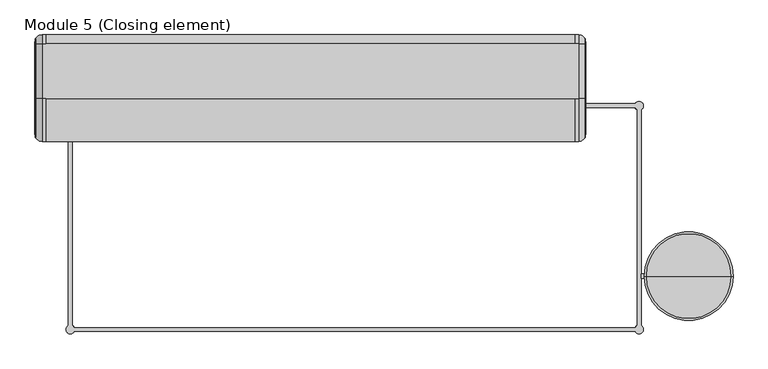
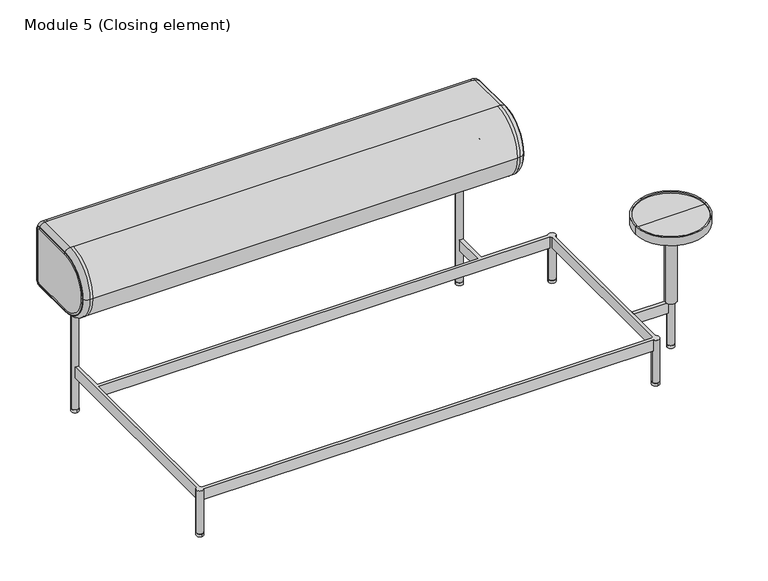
"""IFC4 building model written with IfcOpenShell, lengths in millimetres: furniture geometry, Module 5 (Closing element) : 1800х930х710мм."""

from ifc_helpers import new_model, si_unit, point, frame, frame_2d, origin, origin_with_axes, place, context, project, spatial, polyline, circle_curve, ellipse_curve, trimmed, segment, composite_curve, outline, extrude, source, transform, mapped, element, save
from ifc_brep_helpers import plane_surface, cylinder_surface, revolved_surface, advanced_brep


def module_5_closing_element_739b21b6(model_context):
    return source(origin(), model_context, "Body", "SolidModel", [
        extrude(outline(composite_curve([segment(trimmed(circle_curve(frame_2d((1840.0, -680.0)), 12.5), [point((1852.5, -680.0))], [point((1827.5, -680.0))], False, "CARTESIAN"), True, "CONTINUOUS"), segment(trimmed(circle_curve(frame_2d((1840.0, -680.0)), 12.5), [point((1827.5, -680.0))], [point((1852.5, -680.0))], False, "CARTESIAN"), True, "CONTINUOUS")], self_intersect=False)), origin_with_axes(), (0.0, 0.0, 1.0), 10.0),
        extrude(outline(composite_curve([segment(trimmed(circle_curve(frame_2d((1700.0, -200.0)), 12.5), [point((1712.5, -200.0))], [point((1687.5, -200.0))], False, "CARTESIAN"), True, "CONTINUOUS"), segment(trimmed(circle_curve(frame_2d((1700.0, -200.0)), 12.5), [point((1687.5, -200.0))], [point((1712.5, -200.0))], False, "CARTESIAN"), True, "CONTINUOUS")], self_intersect=False)), origin_with_axes(), (0.0, 0.0, 1.0), 10.0),
        extrude(outline(composite_curve([segment(trimmed(circle_curve(frame_2d((1450.0, -70.0)), 12.5), [point((1462.5, -70.0))], [point((1437.5, -70.0))], False, "CARTESIAN"), True, "CONTINUOUS"), segment(trimmed(circle_curve(frame_2d((1450.0, -70.0)), 12.5), [point((1437.5, -70.0))], [point((1462.5, -70.0))], False, "CARTESIAN"), True, "CONTINUOUS")], self_intersect=False)), origin_with_axes(), (0.0, 0.0, 1.0), 10.0),
        extrude(outline(composite_curve([segment(trimmed(circle_curve(frame_2d((1700.0, -830.0)), 12.5), [point((1700.0, -842.5))], [point((1700.0, -817.5))], False, "CARTESIAN"), True, "CONTINUOUS"), segment(trimmed(circle_curve(frame_2d((1700.0, -830.0)), 12.5), [point((1700.0, -817.5))], [point((1700.0, -842.5))], False, "CARTESIAN"), True, "CONTINUOUS")], self_intersect=False)), origin_with_axes(), (0.0, 0.0, 1.0), 10.0),
        extrude(outline(composite_curve([segment(trimmed(circle_curve(frame_2d((100.0, -70.0)), 12.5), [point((100.0, -82.5))], [point((100.0, -57.5))], False, "CARTESIAN"), True, "CONTINUOUS"), segment(trimmed(circle_curve(frame_2d((100.0, -70.0)), 12.5), [point((100.0, -57.5))], [point((100.0, -82.5))], False, "CARTESIAN"), True, "CONTINUOUS")], self_intersect=False)), origin_with_axes(), (0.0, 0.0, 1.0), 10.0),
        extrude(outline(composite_curve([segment(trimmed(circle_curve(frame_2d((100.0, -830.0)), 12.5), [point((100.0, -842.5))], [point((100.0, -817.5))], False, "CARTESIAN"), True, "CONTINUOUS"), segment(trimmed(circle_curve(frame_2d((100.0, -830.0)), 12.5), [point((100.0, -817.5))], [point((100.0, -842.5))], False, "CARTESIAN"), True, "CONTINUOUS")], self_intersect=False)), origin_with_axes(), (0.0, 0.0, 1.0), 10.0),
        advanced_brep(
        [(1705.9718002, -674.0, 170.0), (1705.9718002, -674.0, 130.0), (1705.9718002, -686.0, 130.0), (1705.9718002, -686.0, 170.0), (1829.0341439, -686.0, 170.0), (1852.5, -680.0, 170.0), (1829.0341439, -674.0, 170.0), (1829.0341439, -686.0, 130.0), (1829.0341439, -674.0, 130.0), (1827.5, -680.0, 130.0), (1827.5, -680.0, 10.0), (1852.5, -680.0, 10.0)],
        [
            (0, 1),
            (1, 2),
            (2, 3),
            (3, 0),
            (3, 4),
            (4, 5, circle_curve(frame((1840.0, -680.0, 170.0), z_axis=(0.0, 0.0, 1.0), x_axis=(1.0, 0.0, 0.0)), 12.5)),
            (5, 6, circle_curve(frame((1840.0, -680.0, 170.0), z_axis=(0.0, 0.0, 1.0), x_axis=(1.0, 0.0, 0.0)), 12.5)),
            (6, 0),
            (2, 7),
            (7, 4),
            (1, 8),
            (8, 9, circle_curve(frame((1840.0, -680.0, 130.0), z_axis=(0.0, 0.0, 1.0), x_axis=(1.0, 0.0, 0.0)), 12.5)),
            (9, 7, circle_curve(frame((1840.0, -680.0, 130.0), z_axis=(0.0, 0.0, 1.0), x_axis=(1.0, 0.0, 0.0)), 12.5)),
            (6, 8),
            (10, 11, circle_curve(frame((1840.0, -680.0, 10.0), z_axis=(0.0, 0.0, -1.0), x_axis=(1.0, 0.0, 0.0)), 12.5)),
            (11, 10, circle_curve(frame((1840.0, -680.0, 10.0), z_axis=(0.0, 0.0, -1.0), x_axis=(1.0, 0.0, 0.0)), 12.5)),
            (11, 5),
            (9, 10),
        ],
        [
            plane_surface(frame((1705.9718002, -680.0, 0.0), z_axis=(-1.0, 0.0, 0.0), x_axis=(0.0, 0.0, 1.0))),
            plane_surface(frame((1840.0, -674.0, 170.0), z_axis=(0.0, 0.0, 1.0), x_axis=(-1.0, 0.0, 0.0))),
            plane_surface(frame((1840.0, -686.0, 170.0), z_axis=(0.0, -1.0, 0.0), x_axis=(-1.0, 0.0, 0.0))),
            plane_surface(frame((1840.0, -686.0, 130.0), z_axis=(0.0, 0.0, -1.0), x_axis=(-1.0, 0.0, 0.0))),
            plane_surface(frame((1840.0, -674.0, 130.0), z_axis=(0.0, 1.0, 0.0), x_axis=(-1.0, 0.0, 0.0))),
            plane_surface(frame((1852.5, -680.0, 10.0), z_axis=(0.0, 0.0, -1.0), x_axis=(0.0, -1.0, 0.0))),
            cylinder_surface(frame((1840.0, -680.0, 10.0), z_axis=(0.0, 0.0, 1.0), x_axis=(1.0, 0.0, 0.0)), 12.5),
        ],
        [
            (0, [[1, 2, 3, 4]]),
            (1, [[-4, 5, 6, 7, 8]]),
            (2, [[-3, 9, 10, -5]]),
            (3, [[-2, 11, 12, 13, -9]]),
            (4, [[-1, -8, 14, -11]]),
            (5, [[15, 16]]),
            (6, [[-16, 17, -6, -10, -13, 18]]),
            (6, [[-15, -18, -12, -14, -7, -17]]),
        ],
    ),
        advanced_brep(
        [(106.0281998, -206.0281998, 130.0), (106.0281998, -206.0281998, 170.0), (106.0281998, -819.0496207, 170.0), (106.0281998, -819.0496207, 130.0), (94.0281998, -819.0187614, 130.0), (94.0281998, -819.0187614, 170.0), (94.0281998, -80.9812386, 170.0), (94.0281998, -80.9812386, 130.0), (110.9503793, -823.9718002, 170.0), (1689.0496207, -823.9718002, 170.0), (1689.0496207, -823.9718002, 130.0), (110.9503793, -823.9718002, 130.0), (110.9812386, -835.9718002, 130.0), (1689.0187614, -835.9718002, 130.0), (1689.0187614, -835.9718002, 170.0), (110.9812386, -835.9718002, 170.0), (1693.9718002, -819.0496207, 170.0), (1693.9718002, -210.9503793, 170.0), (1693.9718002, -210.9503793, 130.0), (1693.9718002, -819.0496207, 130.0), (1705.9718002, -819.0187614, 130.0), (1705.9718002, -210.9812386, 130.0), (1705.9718002, -210.9812386, 170.0), (1705.9718002, -819.0187614, 170.0), (1689.0496207, -206.0281998, 130.0), (1689.0496207, -206.0281998, 170.0), (112.5, -830.0, 130.0), (1687.5, -830.0, 130.0), (106.0281998, -80.9503793, 130.0), (106.0281998, -194.0281998, 130.0), (1444.0, -194.0281998, 130.0), (1444.0, -80.9658561, 130.0), (1456.0, -80.9658561, 130.0), (1456.0, -194.0281998, 130.0), (1689.0187614, -194.0281998, 130.0), (1687.5, -200.0, 130.0), (1689.0187614, -194.0281998, 170.0), (1456.0, -194.0281998, 170.0), (106.0281998, -194.0281998, 170.0), (1444.0, -194.0281998, 170.0), (87.5, -830.0, 170.0), (1712.5, -830.0, 170.0), (1712.5, -200.0, 170.0), (1456.0, -80.9658561, 170.0), (1444.0, -80.9658561, 170.0), (106.0281998, -80.9503793, 170.0), (87.5, -830.0, 10.0), (112.5, -830.0, 10.0), (1687.5, -830.0, 10.0), (1712.5, -830.0, 10.0), (1687.5, -200.0, 10.0), (1712.5, -200.0, 10.0), (87.5, -70.0, 460.0), (112.5, -70.0, 460.0), (1437.5, -70.0, 460.0), (1462.5, -70.0, 460.0), (87.5, -70.0, 10.0), (112.5, -70.0, 10.0), (1437.5, -70.0, 10.0), (1462.5, -70.0, 10.0)],
        [
            (0, 1),
            (1, 2),
            (2, 3),
            (3, 0),
            (4, 5),
            (5, 6),
            (6, 7),
            (7, 4),
            (8, 9),
            (9, 10),
            (10, 11),
            (11, 8),
            (12, 13),
            (13, 14),
            (14, 15),
            (15, 12),
            (16, 17),
            (17, 18),
            (18, 19),
            (19, 16),
            (20, 21),
            (21, 22),
            (22, 23),
            (23, 20),
            (0, 24),
            (24, 25),
            (25, 1),
            (12, 26, circle_curve(frame((100.0, -830.0, 130.0), z_axis=(0.0, 0.0, 1.0), x_axis=(1.0, 0.0, 0.0)), 12.5)),
            (26, 11, circle_curve(frame((100.0, -830.0, 130.0), z_axis=(0.0, 0.0, 1.0), x_axis=(1.0, 0.0, 0.0)), 12.5)),
            (10, 27, circle_curve(frame((1700.0, -830.0, 130.0), z_axis=(0.0, 0.0, 1.0), x_axis=(1.0, 0.0, 0.0)), 12.5)),
            (27, 13, circle_curve(frame((1700.0, -830.0, 130.0), z_axis=(0.0, 0.0, 1.0), x_axis=(1.0, 0.0, 0.0)), 12.5)),
            (20, 19, circle_curve(frame((1700.0, -830.0, 130.0), z_axis=(0.0, 0.0, 1.0), x_axis=(1.0, 0.0, 0.0)), 12.5)),
            (18, 21, circle_curve(frame((1700.0, -200.0, 130.0), z_axis=(0.0, 0.0, 1.0), x_axis=(1.0, 0.0, 0.0)), 12.5)),
            (3, 4, circle_curve(frame((100.0, -830.0, 130.0), z_axis=(0.0, 0.0, 1.0), x_axis=(1.0, 0.0, 0.0)), 12.5)),
            (7, 28, circle_curve(frame((100.0, -70.0, 130.0), z_axis=(0.0, 0.0, 1.0), x_axis=(1.0, 0.0, 0.0)), 12.5)),
            (28, 29),
            (29, 30),
            (30, 31),
            (31, 32, circle_curve(frame((1450.0, -70.0, 130.0), z_axis=(0.0, 0.0, 1.0), x_axis=(1.0, 0.0, 0.0)), 12.5)),
            (32, 33),
            (33, 34),
            (34, 35, circle_curve(frame((1700.0, -200.0, 130.0), z_axis=(0.0, 0.0, 1.0), x_axis=(1.0, 0.0, 0.0)), 12.5)),
            (35, 24, circle_curve(frame((1700.0, -200.0, 130.0), z_axis=(0.0, 0.0, 1.0), x_axis=(1.0, 0.0, 0.0)), 12.5)),
            (36, 34),
            (33, 37),
            (37, 36),
            (29, 38),
            (38, 39),
            (39, 30),
            (40, 15, circle_curve(frame((100.0, -830.0, 170.0), z_axis=(0.0, 0.0, 1.0), x_axis=(1.0, 0.0, 0.0)), 12.5)),
            (14, 41, circle_curve(frame((1700.0, -830.0, 170.0), z_axis=(0.0, 0.0, 1.0), x_axis=(1.0, 0.0, 0.0)), 12.5)),
            (41, 23, circle_curve(frame((1700.0, -830.0, 170.0), z_axis=(0.0, 0.0, 1.0), x_axis=(1.0, 0.0, 0.0)), 12.5)),
            (22, 42, circle_curve(frame((1700.0, -200.0, 170.0), z_axis=(0.0, 0.0, 1.0), x_axis=(1.0, 0.0, 0.0)), 12.5)),
            (42, 36, circle_curve(frame((1700.0, -200.0, 170.0), z_axis=(0.0, 0.0, 1.0), x_axis=(1.0, 0.0, 0.0)), 12.5)),
            (37, 43),
            (43, 44, circle_curve(frame((1450.0, -70.0, 170.0), z_axis=(0.0, 0.0, -1.0), x_axis=(1.0, 0.0, 0.0)), 12.5)),
            (44, 39),
            (38, 45),
            (45, 6, circle_curve(frame((100.0, -70.0, 170.0), z_axis=(0.0, 0.0, -1.0), x_axis=(1.0, 0.0, 0.0)), 12.5)),
            (5, 40, circle_curve(frame((100.0, -830.0, 170.0), z_axis=(0.0, 0.0, 1.0), x_axis=(1.0, 0.0, 0.0)), 12.5)),
            (25, 17, circle_curve(frame((1700.0, -200.0, 170.0), z_axis=(0.0, 0.0, 1.0), x_axis=(1.0, 0.0, 0.0)), 12.5)),
            (16, 9, circle_curve(frame((1700.0, -830.0, 170.0), z_axis=(0.0, 0.0, 1.0), x_axis=(1.0, 0.0, 0.0)), 12.5)),
            (8, 2, circle_curve(frame((100.0, -830.0, 170.0), z_axis=(0.0, 0.0, 1.0), x_axis=(1.0, 0.0, 0.0)), 12.5)),
            (46, 47, circle_curve(frame((100.0, -830.0, 10.0), z_axis=(0.0, 0.0, -1.0), x_axis=(1.0, 0.0, 0.0)), 12.5)),
            (47, 46, circle_curve(frame((100.0, -830.0, 10.0), z_axis=(0.0, 0.0, -1.0), x_axis=(1.0, 0.0, 0.0)), 12.5)),
            (48, 49, circle_curve(frame((1700.0, -830.0, 10.0), z_axis=(0.0, 0.0, -1.0), x_axis=(1.0, 0.0, 0.0)), 12.5)),
            (49, 48, circle_curve(frame((1700.0, -830.0, 10.0), z_axis=(0.0, 0.0, -1.0), x_axis=(1.0, 0.0, 0.0)), 12.5)),
            (50, 51, circle_curve(frame((1700.0, -200.0, 10.0), z_axis=(0.0, 0.0, -1.0), x_axis=(1.0, 0.0, 0.0)), 12.5)),
            (51, 50, circle_curve(frame((1700.0, -200.0, 10.0), z_axis=(0.0, 0.0, -1.0), x_axis=(1.0, 0.0, 0.0)), 12.5)),
            (47, 26),
            (40, 46),
            (49, 41),
            (27, 48),
            (51, 42),
            (35, 50),
            (52, 53, circle_curve(frame((100.0, -70.0, 460.0), z_axis=(0.0, 0.0, 1.0), x_axis=(1.0, 0.0, 0.0)), 12.5)),
            (53, 52, circle_curve(frame((100.0, -70.0, 460.0), z_axis=(0.0, 0.0, 1.0), x_axis=(1.0, 0.0, 0.0)), 12.5)),
            (54, 55, circle_curve(frame((1450.0, -70.0, 460.0), z_axis=(0.0, 0.0, 1.0), x_axis=(1.0, 0.0, 0.0)), 12.5)),
            (55, 54, circle_curve(frame((1450.0, -70.0, 460.0), z_axis=(0.0, 0.0, 1.0), x_axis=(1.0, 0.0, 0.0)), 12.5)),
            (56, 57, circle_curve(frame((100.0, -70.0, 10.0), z_axis=(0.0, 0.0, -1.0), x_axis=(1.0, 0.0, 0.0)), 12.5)),
            (57, 56, circle_curve(frame((100.0, -70.0, 10.0), z_axis=(0.0, 0.0, -1.0), x_axis=(1.0, 0.0, 0.0)), 12.5)),
            (58, 59, circle_curve(frame((1450.0, -70.0, 10.0), z_axis=(0.0, 0.0, -1.0), x_axis=(1.0, 0.0, 0.0)), 12.5)),
            (59, 58, circle_curve(frame((1450.0, -70.0, 10.0), z_axis=(0.0, 0.0, -1.0), x_axis=(1.0, 0.0, 0.0)), 12.5)),
            (52, 56),
            (57, 53),
            (45, 28),
            (54, 58),
            (59, 55),
            (43, 32),
            (31, 44),
        ],
        [
            plane_surface(frame((106.0281998, -206.0281998, 170.0), z_axis=(1.0, 0.0, 0.0), x_axis=(0.0, -1.0, 0.0))),
            plane_surface(frame((94.0281998, -194.0281998, 130.0), z_axis=(-1.0, 0.0, 0.0), x_axis=(0.0, -1.0, 0.0))),
            plane_surface(frame((106.0281998, -823.9718002, 170.0), z_axis=(0.0, 1.0, 0.0), x_axis=(1.0, 0.0, 0.0))),
            plane_surface(frame((94.0281998, -835.9718002, 130.0), z_axis=(0.0, -1.0, 0.0), x_axis=(1.0, 0.0, 0.0))),
            plane_surface(frame((1693.9718002, -823.9718002, 170.0), z_axis=(-1.0, 0.0, 0.0), x_axis=(0.0, 1.0, 0.0))),
            plane_surface(frame((1705.9718002, -835.9718002, 130.0), z_axis=(1.0, 0.0, 0.0), x_axis=(0.0, 1.0, 0.0))),
            plane_surface(frame((1693.9718002, -206.0281998, 170.0), z_axis=(0.0, -1.0, 0.0), x_axis=(-1.0, 0.0, 0.0))),
            plane_surface(frame((1693.9718002, -206.0281998, 130.0), z_axis=(0.0, 0.0, -1.0), x_axis=(-1.0, 0.0, 0.0))),
            plane_surface(frame((1705.9718002, -194.0281998, 130.0), z_axis=(0.0, 1.0, 0.0), x_axis=(-1.0, 0.0, 0.0))),
            plane_surface(frame((1705.9718002, -194.0281998, 170.0), z_axis=(0.0, 0.0, 1.0), x_axis=(-1.0, 0.0, 0.0))),
            plane_surface(frame((112.5, -830.0, 10.0), z_axis=(0.0, 0.0, -1.0), x_axis=(0.0, -1.0, 0.0))),
            cylinder_surface(frame((100.0, -830.0, 10.0), z_axis=(0.0, 0.0, 1.0), x_axis=(1.0, 0.0, 0.0)), 12.5),
            cylinder_surface(frame((1700.0, -830.0, 0.0), z_axis=(0.0, 0.0, 1.0), x_axis=(1.0, 0.0, 0.0)), 12.5),
            cylinder_surface(frame((1700.0, -200.0, 0.0), z_axis=(0.0, 0.0, 1.0), x_axis=(1.0, 0.0, 0.0)), 12.5),
            plane_surface(frame((112.5, -70.0, 460.0), z_axis=(0.0, 0.0, 1.0), x_axis=(0.0, 1.0, 0.0))),
            plane_surface(frame((112.5, -70.0, 10.0), z_axis=(0.0, 0.0, -1.0), x_axis=(0.0, -1.0, 0.0))),
            cylinder_surface(frame((100.0, -70.0, 10.0), z_axis=(0.0, 0.0, 1.0), x_axis=(1.0, 0.0, 0.0)), 12.5),
            cylinder_surface(frame((1450.0, -70.0, 0.0), z_axis=(0.0, 0.0, 1.0), x_axis=(1.0, 0.0, 0.0)), 12.5),
            plane_surface(frame((106.0281998, -70.0, 170.0), z_axis=(1.0, 0.0, 0.0), x_axis=(0.0, -1.0, 0.0))),
            plane_surface(frame((1456.0, -70.0, 170.0), z_axis=(1.0, 0.0, 0.0), x_axis=(0.0, -1.0, 0.0))),
            plane_surface(frame((1444.0, -70.0, 130.0), z_axis=(-1.0, 0.0, 0.0), x_axis=(0.0, -1.0, 0.0))),
        ],
        [
            (0, [[1, 2, 3, 4]]),
            (1, [[5, 6, 7, 8]]),
            (2, [[9, 10, 11, 12]]),
            (3, [[13, 14, 15, 16]]),
            (4, [[17, 18, 19, 20]]),
            (5, [[21, 22, 23, 24]]),
            (6, [[-1, 25, 26, 27]]),
            (7, [[-13, 28, 29, -11, 30, 31]]),
            (7, [[-21, 32, -19, 33]]),
            (7, [[-25, -4, 34, -8, 35, 36, 37, 38, 39, 40, 41, 42, 43]]),
            (8, [[44, -41, 45, 46]]),
            (8, [[47, 48, 49, -37]]),
            (9, [[50, -15, 51, 52, -23, 53, 54, -46, 55, 56, 57, -48, 58, 59, -6, 60], [-2, -27, 61, -17, 62, -9, 63]]),
            (10, [[64, 65]]),
            (10, [[66, 67]]),
            (10, [[68, 69]]),
            (11, [[-65, 70, -28, -16, -50, 71]]),
            (11, [[-64, -71, -60, -5, -34, -3, -63, -12, -29, -70]]),
            (12, [[-67, 72, -51, -14, -31, 73]]),
            (12, [[-66, -73, -30, -10, -62, -20, -32, -24, -52, -72]]),
            (13, [[-69, 74, -53, -22, -33, -18, -61, -26, -43, 75]]),
            (13, [[-68, -75, -42, -44, -54, -74]]),
            (14, [[76, 77]]),
            (14, [[78, 79]]),
            (15, [[80, 81]]),
            (15, [[82, 83]]),
            (16, [[-76, 84, -81, 85], [86, -35, -7, -59]]),
            (16, [[-77, -85, -80, -84]]),
            (17, [[-78, 87, -83, 88], [89, -39, 90, -56]]),
            (17, [[-79, -88, -82, -87]]),
            (18, [[-58, -47, -36, -86]]),
            (19, [[-55, -45, -40, -89]]),
            (20, [[-38, -49, -57, -90]]),
        ],
    ),
        advanced_brep(
        [(1720.0, -680.0, 490.0), (1960.0, -680.0, 490.0), (1965.0, -680.0, 490.0), (1715.0, -680.0, 490.0), (1720.0, -680.0, 485.0), (1960.0, -680.0, 485.0), (1840.0, -680.0, 485.0), (1820.0, -680.0, 170.0), (1860.0, -680.0, 170.0), (1840.0, -680.0, 170.0), (1820.0, -680.0, 460.0), (1860.0, -680.0, 460.0), (1715.0, -680.0, 460.0), (1965.0, -680.0, 460.0)],
        [
            (0, 1, circle_curve(frame((1840.0, -680.0, 490.0), z_axis=(0.0, 0.0, -1.0), x_axis=(1.0, 0.0, 0.0)), 120.0)),
            (1, 2),
            (2, 3, circle_curve(frame((1840.0, -680.0, 490.0), z_axis=(0.0, 0.0, 1.0), x_axis=(1.0, 0.0, 0.0)), 125.0)),
            (3, 0),
            (1, 0, circle_curve(frame((1840.0, -680.0, 490.0), z_axis=(0.0, 0.0, -1.0), x_axis=(1.0, 0.0, 0.0)), 120.0)),
            (3, 2, circle_curve(frame((1840.0, -680.0, 490.0), z_axis=(0.0, 0.0, 1.0), x_axis=(1.0, 0.0, 0.0)), 125.0)),
            (4, 5, circle_curve(frame((1840.0, -680.0, 485.0), z_axis=(0.0, 0.0, -1.0), x_axis=(1.0, 0.0, 0.0)), 120.0)),
            (5, 1),
            (0, 4),
            (5, 4, circle_curve(frame((1840.0, -680.0, 485.0), z_axis=(0.0, 0.0, -1.0), x_axis=(1.0, 0.0, 0.0)), 120.0)),
            (6, 5),
            (4, 6),
            (7, 8, circle_curve(frame((1840.0, -680.0, 170.0), z_axis=(0.0, 0.0, -1.0), x_axis=(1.0, 0.0, 0.0)), 20.0)),
            (8, 9),
            (9, 7),
            (8, 7, circle_curve(frame((1840.0, -680.0, 170.0), z_axis=(0.0, 0.0, -1.0), x_axis=(1.0, 0.0, 0.0)), 20.0)),
            (10, 11, circle_curve(frame((1840.0, -680.0, 460.0), z_axis=(0.0, 0.0, -1.0), x_axis=(1.0, 0.0, 0.0)), 20.0)),
            (11, 8),
            (7, 10),
            (11, 10, circle_curve(frame((1840.0, -680.0, 460.0), z_axis=(0.0, 0.0, -1.0), x_axis=(1.0, 0.0, 0.0)), 20.0)),
            (12, 13, circle_curve(frame((1840.0, -680.0, 460.0), z_axis=(0.0, 0.0, -1.0), x_axis=(1.0, 0.0, 0.0)), 125.0)),
            (13, 11),
            (10, 12),
            (13, 12, circle_curve(frame((1840.0, -680.0, 460.0), z_axis=(0.0, 0.0, -1.0), x_axis=(1.0, 0.0, 0.0)), 125.0)),
            (2, 13),
            (12, 3),
        ],
        [
            plane_surface(frame((1840.0, -680.0, 490.0), z_axis=(0.0, 0.0, 1.0), x_axis=(1.0, 0.0, 0.0))),
            revolved_surface(polyline([(1960.0, -680.0, 490.0), (1960.0, -680.0, 485.0)]), (1840.0, -680.0, 2438.4), (0.0, 0.0, 1.0)),
            plane_surface(frame((1840.0, -680.0, 485.0), z_axis=(0.0, 0.0, 1.0), x_axis=(1.0, 0.0, 0.0))),
            plane_surface(frame((1840.0, -680.0, 170.0), z_axis=(0.0, 0.0, -1.0), x_axis=(1.0, 0.0, 0.0))),
            cylinder_surface(frame((1840.0, -680.0, 2438.4), z_axis=(0.0, 0.0, 1.0), x_axis=(1.0, 0.0, 0.0)), 20.0),
            plane_surface(frame((1840.0, -680.0, 460.0), z_axis=(0.0, 0.0, -1.0), x_axis=(1.0, 0.0, 0.0))),
            cylinder_surface(frame((1840.0, -680.0, 2438.4), z_axis=(0.0, 0.0, 1.0), x_axis=(1.0, 0.0, 0.0)), 125.0),
        ],
        [
            (0, [[1, 2, 3, 4]]),
            (0, [[5, -4, 6, -2]]),
            (1, [[7, 8, -1, 9]]),
            (1, [[10, -9, -5, -8]]),
            (2, [[11, -7, 12]]),
            (2, [[-12, -10, -11]]),
            (3, [[13, 14, 15]]),
            (3, [[16, -15, -14]]),
            (4, [[17, 18, -13, 19]]),
            (4, [[20, -19, -16, -18]]),
            (5, [[21, 22, -17, 23]]),
            (5, [[24, -23, -20, -22]]),
            (6, [[-3, 25, -21, 26]]),
            (6, [[-6, -26, -24, -25]]),
        ],
    ),
        advanced_brep(
        [(0.0, -280.0, 580.0), (0.0, -180.0, 680.0), (0.0, -25.0, 680.0), (0.0, -20.0, 675.0), (0.0, -20.0, 485.0), (0.0, -25.0, 480.0), (0.0, -180.0, 480.0), (20.0, -300.0, 580.0), (20.0, -180.0, 700.0), (2.1372821, -180.0, 688.9957385), (2.1372821, -288.9957385, 580.0), (30.0, -300.0, 580.0), (30.0, -180.0, 700.0), (2.1372821, -180.0, 471.0042615), (20.0, -180.0, 460.0), (30.0, -180.0, 460.0), (2.1372821, -25.0, 471.0042615), (20.0, -25.0, 460.0), (30.0, -25.0, 460.0), (1520.0, -25.0, 460.0), (1530.0, -25.0, 460.0), (1530.0, -180.0, 460.0), (1520.0, -180.0, 460.0), (2.1372821, -11.0042615, 485.0), (20.0, 0.0, 485.0), (30.0, 0.0, 485.0), (2.1372821, -11.0042615, 675.0), (20.0, 0.0, 675.0), (30.0, 0.0, 675.0), (1520.0, 0.0, 675.0), (1530.0, 0.0, 675.0), (1530.0, 0.0, 485.0), (1520.0, 0.0, 485.0), (2.1372821, -25.0, 688.9957385), (20.0, -25.0, 700.0), (30.0, -25.0, 700.0), (1520.0, -180.0, 700.0), (1530.0, -180.0, 700.0), (1530.0, -25.0, 700.0), (1520.0, -25.0, 700.0), (1520.0, -300.0, 580.0), (1550.0, -180.0, 680.0), (1550.0, -280.0, 580.0), (1550.0, -180.0, 480.0), (1550.0, -25.0, 480.0), (1550.0, -20.0, 485.0), (1550.0, -20.0, 675.0), (1550.0, -25.0, 680.0), (1548.319335, -180.0, 688.0250834), (1548.319335, -288.0250834, 580.0), (1530.0, -300.0, 580.0), (1548.319335, -180.0, 471.9749166), (1548.319335, -25.0, 471.9749166), (1548.319335, -11.9749166, 485.0), (1548.319335, -11.9749166, 675.0), (1548.319335, -25.0, 688.0250834), (1547.9066419, -288.9079837, 580.0), (1547.9066419, -180.0, 688.9079837), (1547.9066419, -180.0, 471.0920163), (1547.9066419, -25.0, 471.0920163), (1547.9066419, -11.0920163, 485.0), (1547.9066419, -11.0920163, 675.0), (1547.9066419, -25.0, 688.9079837), (1.7163728, -288.1061073, 580.0), (1.7163728, -180.0, 688.1061073), (1.7163728, -180.0, 471.8938927), (1.7163728, -25.0, 471.8938927), (1.7163728, -11.8938927, 485.0), (1.7163728, -11.8938927, 675.0), (1.7163728, -25.0, 688.1061073)],
        [
            (0, 1, circle_curve(frame((0.0, -180.0, 580.0), z_axis=(-1.0, 0.0, 0.0), x_axis=(0.0, 0.0, 1.0)), 100.0)),
            (1, 2),
            (2, 3, circle_curve(frame((0.0, -25.0, 675.0), z_axis=(-1.0, 0.0, 0.0), x_axis=(0.0, 1.0, 0.0)), 5.0)),
            (3, 4),
            (4, 5, circle_curve(frame((0.0, -25.0, 485.0), z_axis=(-1.0, 0.0, 0.0), x_axis=(0.0, 0.0, -1.0)), 5.0)),
            (5, 6),
            (6, 0, circle_curve(frame((0.0, -180.0, 580.0), z_axis=(-1.0, 0.0, 0.0), x_axis=(0.0, -1.0, 0.0)), 100.0)),
            (7, 8, circle_curve(frame((20.0, -180.0, 580.0), z_axis=(-1.0, 0.0, 0.0), x_axis=(0.0, 0.0, 1.0)), 120.0)),
            (8, 9, circle_curve(frame((20.0, -180.0, 680.0), z_axis=(0.0, -1.0, 0.0), x_axis=(0.0, 0.0, -1.0)), 20.0)),
            (9, 10, circle_curve(frame((2.1372821, -180.0, 580.0), z_axis=(1.0, 0.0, 0.0), x_axis=(0.0, 0.0, 1.0)), 108.9957385)),
            (10, 7, circle_curve(frame((20.0, -280.0, 580.0), z_axis=(0.0, 0.0, 1.0), x_axis=(0.0, 1.0, 0.0)), 20.0)),
            (7, 11),
            (11, 12, circle_curve(frame((30.0, -180.0, 580.0), z_axis=(-1.0, 0.0, 0.0), x_axis=(0.0, 0.0, 1.0)), 120.0)),
            (12, 8),
            (10, 13, circle_curve(frame((2.1372821, -180.0, 580.0), z_axis=(1.0, 0.0, 0.0), x_axis=(0.0, -1.0, 0.0)), 108.9957385)),
            (13, 14, circle_curve(frame((20.0, -180.0, 480.0), z_axis=(0.0, -1.0, 0.0), x_axis=(0.0, 0.0, 1.0)), 20.0)),
            (14, 7, circle_curve(frame((20.0, -180.0, 580.0), z_axis=(-1.0, 0.0, 0.0), x_axis=(0.0, -1.0, 0.0)), 120.0)),
            (14, 15),
            (15, 11, circle_curve(frame((30.0, -180.0, 580.0), z_axis=(-1.0, 0.0, 0.0), x_axis=(0.0, -1.0, 0.0)), 120.0)),
            (13, 16),
            (16, 17, circle_curve(frame((20.0, -25.0, 480.0), z_axis=(0.0, -1.0, 0.0), x_axis=(0.0, 0.0, 1.0)), 20.0)),
            (17, 14),
            (17, 18),
            (18, 19),
            (19, 20),
            (20, 21),
            (21, 22),
            (22, 15),
            (16, 23, circle_curve(frame((2.1372821, -25.0, 485.0), z_axis=(1.0, 0.0, 0.0), x_axis=(0.0, 0.0, -1.0)), 13.9957385)),
            (23, 24, circle_curve(frame((20.0, -20.0, 485.0), z_axis=(0.0, 0.0, -1.0), x_axis=(0.0, -1.0, 0.0)), 20.0)),
            (24, 17, circle_curve(frame((20.0, -25.0, 485.0), z_axis=(-1.0, 0.0, 0.0), x_axis=(0.0, 0.0, -1.0)), 25.0)),
            (24, 25),
            (25, 18, circle_curve(frame((30.0, -25.0, 485.0), z_axis=(-1.0, 0.0, 0.0), x_axis=(0.0, 0.0, -1.0)), 25.0)),
            (23, 26),
            (26, 27, circle_curve(frame((20.0, -20.0, 675.0), z_axis=(0.0, 0.0, -1.0), x_axis=(0.0, -1.0, 0.0)), 20.0)),
            (27, 24),
            (27, 28),
            (28, 29),
            (29, 30),
            (30, 31),
            (31, 32),
            (32, 25),
            (26, 33, circle_curve(frame((2.1372821, -25.0, 675.0), z_axis=(1.0, 0.0, 0.0), x_axis=(0.0, 1.0, 0.0)), 13.9957385)),
            (33, 34, circle_curve(frame((20.0, -25.0, 680.0), z_axis=(0.0, 1.0, 0.0), x_axis=(0.0, 0.0, -1.0)), 20.0)),
            (34, 27, circle_curve(frame((20.0, -25.0, 675.0), z_axis=(-1.0, 0.0, 0.0), x_axis=(0.0, 1.0, 0.0)), 25.0)),
            (34, 35),
            (35, 28, circle_curve(frame((30.0, -25.0, 675.0), z_axis=(-1.0, 0.0, 0.0), x_axis=(0.0, 1.0, 0.0)), 25.0)),
            (8, 34),
            (33, 9),
            (12, 36),
            (36, 37),
            (37, 38),
            (38, 39),
            (39, 35),
            (39, 29, circle_curve(frame((1520.0, -25.0, 675.0), z_axis=(-1.0, 0.0, 0.0), x_axis=(0.0, 1.0, 0.0)), 25.0)),
            (11, 40),
            (40, 36, circle_curve(frame((1520.0, -180.0, 580.0), z_axis=(-1.0, 0.0, 0.0), x_axis=(0.0, 1.0, 0.0)), 120.0)),
            (22, 40, circle_curve(frame((1520.0, -180.0, 580.0), z_axis=(-1.0, 0.0, 0.0), x_axis=(0.0, 1.0, 0.0)), 120.0)),
            (32, 19, circle_curve(frame((1520.0, -25.0, 485.0), z_axis=(-1.0, 0.0, 0.0), x_axis=(0.0, 1.0, 0.0)), 25.0)),
            (41, 42, circle_curve(frame((1550.0, -180.0, 580.0), z_axis=(1.0, 0.0, 0.0), x_axis=(0.0, 0.0, 1.0)), 100.0)),
            (42, 43, circle_curve(frame((1550.0, -180.0, 580.0), z_axis=(1.0, 0.0, 0.0), x_axis=(0.0, -1.0, 0.0)), 100.0)),
            (43, 44),
            (44, 45, circle_curve(frame((1550.0, -25.0, 485.0), z_axis=(1.0, 0.0, 0.0), x_axis=(0.0, 0.0, -1.0)), 5.0)),
            (45, 46),
            (46, 47, circle_curve(frame((1550.0, -25.0, 675.0), z_axis=(1.0, 0.0, 0.0), x_axis=(0.0, 1.0, 0.0)), 5.0)),
            (47, 41),
            (41, 48, circle_curve(frame((1530.0, -180.0, 680.0), z_axis=(0.0, -1.0, 0.0), x_axis=(0.0, 0.0, -1.0)), 20.0)),
            (48, 49, circle_curve(frame((1548.319335, -180.0, 580.0), z_axis=(1.0, 0.0, 0.0), x_axis=(0.0, 0.0, 1.0)), 108.0250834)),
            (49, 42, circle_curve(frame((1530.0, -280.0, 580.0), z_axis=(0.0, 0.0, 1.0), x_axis=(0.0, 1.0, 0.0)), 20.0)),
            (50, 37, circle_curve(frame((1530.0, -180.0, 580.0), z_axis=(-1.0, 0.0, 0.0), x_axis=(0.0, 0.0, 1.0)), 120.0)),
            (40, 50),
            (49, 51, circle_curve(frame((1548.319335, -180.0, 580.0), z_axis=(1.0, 0.0, 0.0), x_axis=(0.0, -1.0, 0.0)), 108.0250834)),
            (51, 43, circle_curve(frame((1530.0, -180.0, 480.0), z_axis=(0.0, -1.0, 0.0), x_axis=(0.0, 0.0, 1.0)), 20.0)),
            (21, 50, circle_curve(frame((1530.0, -180.0, 580.0), z_axis=(-1.0, 0.0, 0.0), x_axis=(0.0, -1.0, 0.0)), 120.0)),
            (51, 52),
            (52, 44, circle_curve(frame((1530.0, -25.0, 480.0), z_axis=(0.0, -1.0, 0.0), x_axis=(0.0, 0.0, 1.0)), 20.0)),
            (52, 53, circle_curve(frame((1548.319335, -25.0, 485.0), z_axis=(1.0, 0.0, 0.0), x_axis=(0.0, 0.0, -1.0)), 13.0250834)),
            (53, 45, circle_curve(frame((1530.0, -20.0, 485.0), z_axis=(0.0, 0.0, -1.0), x_axis=(0.0, -1.0, 0.0)), 20.0)),
            (31, 20, circle_curve(frame((1530.0, -25.0, 485.0), z_axis=(-1.0, 0.0, 0.0), x_axis=(0.0, 0.0, -1.0)), 25.0)),
            (53, 54),
            (54, 46, circle_curve(frame((1530.0, -20.0, 675.0), z_axis=(0.0, 0.0, -1.0), x_axis=(0.0, -1.0, 0.0)), 20.0)),
            (54, 55, circle_curve(frame((1548.319335, -25.0, 675.0), z_axis=(1.0, 0.0, 0.0), x_axis=(0.0, 1.0, 0.0)), 13.0250834)),
            (55, 47, circle_curve(frame((1530.0, -25.0, 680.0), z_axis=(0.0, 1.0, 0.0), x_axis=(0.0, 0.0, -1.0)), 20.0)),
            (38, 30, circle_curve(frame((1530.0, -25.0, 675.0), z_axis=(-1.0, 0.0, 0.0), x_axis=(0.0, 1.0, 0.0)), 25.0)),
            (55, 48),
            (50, 56, circle_curve(frame((1530.0, -280.0, 580.0), z_axis=(0.0, 0.0, 1.0), x_axis=(0.0, 1.0, 0.0)), 20.0)),
            (56, 57, circle_curve(frame((1547.9066419, -180.0, 580.0), z_axis=(-1.0, 0.0, 0.0), x_axis=(0.0, 0.0, 1.0)), 108.9079837)),
            (57, 37, circle_curve(frame((1530.0, -180.0, 680.0), z_axis=(0.0, -1.0, 0.0), x_axis=(0.0, 0.0, -1.0)), 20.0)),
            (48, 57, circle_curve(frame((1548.6877598, -180.0, 688.7351983), z_axis=(0.0, -1.0, 0.0), x_axis=(0.0, 0.0, -1.0)), 0.8)),
            (56, 49, circle_curve(frame((1548.6877598, -288.7351983, 580.0), z_axis=(0.0, 0.0, 1.0), x_axis=(0.0, 1.0, 0.0)), 0.8)),
            (21, 58, circle_curve(frame((1530.0, -180.0, 480.0), z_axis=(0.0, -1.0, 0.0), x_axis=(0.0, 0.0, 1.0)), 20.0)),
            (58, 56, circle_curve(frame((1547.9066419, -180.0, 580.0), z_axis=(-1.0, 0.0, 0.0), x_axis=(0.0, -1.0, 0.0)), 108.9079837)),
            (58, 51, circle_curve(frame((1548.6877598, -180.0, 471.2648017), z_axis=(0.0, -1.0, 0.0), x_axis=(0.0, 0.0, 1.0)), 0.8)),
            (20, 59, circle_curve(frame((1530.0, -25.0, 480.0), z_axis=(0.0, -1.0, 0.0), x_axis=(0.0, 0.0, 1.0)), 20.0)),
            (59, 58),
            (59, 52, circle_curve(frame((1548.6877598, -25.0, 471.2648017), z_axis=(0.0, -1.0, 0.0), x_axis=(0.0, 0.0, 1.0)), 0.8)),
            (31, 60, circle_curve(frame((1530.0, -20.0, 485.0), z_axis=(0.0, 0.0, -1.0), x_axis=(0.0, -1.0, 0.0)), 20.0)),
            (60, 59, circle_curve(frame((1547.9066419, -25.0, 485.0), z_axis=(-1.0, 0.0, 0.0), x_axis=(0.0, 0.0, -1.0)), 13.9079837)),
            (60, 53, circle_curve(frame((1548.6877598, -11.2648017, 485.0), z_axis=(0.0, 0.0, -1.0), x_axis=(0.0, -1.0, 0.0)), 0.8)),
            (30, 61, circle_curve(frame((1530.0, -20.0, 675.0), z_axis=(0.0, 0.0, -1.0), x_axis=(0.0, -1.0, 0.0)), 20.0)),
            (61, 60),
            (61, 54, circle_curve(frame((1548.6877598, -11.2648017, 675.0), z_axis=(0.0, 0.0, -1.0), x_axis=(0.0, -1.0, 0.0)), 0.8)),
            (38, 62, circle_curve(frame((1530.0, -25.0, 680.0), z_axis=(0.0, 1.0, 0.0), x_axis=(0.0, 0.0, -1.0)), 20.0)),
            (62, 61, circle_curve(frame((1547.9066419, -25.0, 675.0), z_axis=(-1.0, 0.0, 0.0), x_axis=(0.0, 1.0, 0.0)), 13.9079837)),
            (62, 55, circle_curve(frame((1548.6877598, -25.0, 688.7351983), z_axis=(0.0, 1.0, 0.0), x_axis=(0.0, 0.0, -1.0)), 0.8)),
            (57, 62),
            (63, 64, circle_curve(frame((1.7163728, -180.0, 580.0), z_axis=(-1.0, 0.0, 0.0), x_axis=(0.0, 0.0, 1.0)), 108.1061073)),
            (64, 1, circle_curve(frame((20.0, -180.0, 680.0), z_axis=(0.0, -1.0, 0.0), x_axis=(0.0, 0.0, -1.0)), 20.0)),
            (0, 63, circle_curve(frame((20.0, -280.0, 580.0), z_axis=(0.0, 0.0, 1.0), x_axis=(0.0, 1.0, 0.0)), 20.0)),
            (9, 64, circle_curve(frame((1.3566705, -180.0, 688.8206801), z_axis=(0.0, -1.0, 0.0), x_axis=(0.0, 0.0, -1.0)), 0.8)),
            (63, 10, circle_curve(frame((1.3566705, -288.8206801, 580.0), z_axis=(0.0, 0.0, 1.0), x_axis=(0.0, 1.0, 0.0)), 0.8)),
            (6, 65, circle_curve(frame((20.0, -180.0, 480.0), z_axis=(0.0, -1.0, 0.0), x_axis=(0.0, 0.0, 1.0)), 20.0)),
            (65, 63, circle_curve(frame((1.7163728, -180.0, 580.0), z_axis=(-1.0, 0.0, 0.0), x_axis=(0.0, -1.0, 0.0)), 108.1061073)),
            (65, 13, circle_curve(frame((1.3566705, -180.0, 471.1793199), z_axis=(0.0, -1.0, 0.0), x_axis=(0.0, 0.0, 1.0)), 0.8)),
            (5, 66, circle_curve(frame((20.0, -25.0, 480.0), z_axis=(0.0, -1.0, 0.0), x_axis=(0.0, 0.0, 1.0)), 20.0)),
            (66, 65),
            (66, 16, circle_curve(frame((1.3566705, -25.0, 471.1793199), z_axis=(0.0, -1.0, 0.0), x_axis=(0.0, 0.0, 1.0)), 0.8)),
            (4, 67, circle_curve(frame((20.0, -20.0, 485.0), z_axis=(0.0, 0.0, -1.0), x_axis=(0.0, -1.0, 0.0)), 20.0)),
            (67, 66, circle_curve(frame((1.7163728, -25.0, 485.0), z_axis=(-1.0, 0.0, 0.0), x_axis=(0.0, 0.0, -1.0)), 13.1061073)),
            (67, 23, circle_curve(frame((1.3566705, -11.1793199, 485.0), z_axis=(0.0, 0.0, -1.0), x_axis=(0.0, -1.0, 0.0)), 0.8)),
            (3, 68, circle_curve(frame((20.0, -20.0, 675.0), z_axis=(0.0, 0.0, -1.0), x_axis=(0.0, -1.0, 0.0)), 20.0)),
            (68, 67),
            (68, 26, circle_curve(frame((1.3566705, -11.1793199, 675.0), z_axis=(0.0, 0.0, -1.0), x_axis=(0.0, -1.0, 0.0)), 0.8)),
            (2, 69, circle_curve(frame((20.0, -25.0, 680.0), z_axis=(0.0, 1.0, 0.0), x_axis=(0.0, 0.0, -1.0)), 20.0)),
            (69, 68, circle_curve(frame((1.7163728, -25.0, 675.0), z_axis=(-1.0, 0.0, 0.0), x_axis=(0.0, 1.0, 0.0)), 13.1061073)),
            (69, 33, circle_curve(frame((1.3566705, -25.0, 688.8206801), z_axis=(0.0, 1.0, 0.0), x_axis=(0.0, 0.0, -1.0)), 0.8)),
            (64, 69),
        ],
        [
            plane_surface(frame((0.0, -180.0, 680.0), z_axis=(-1.0, 0.0, 0.0), x_axis=(0.0, 1.0, 0.0))),
            revolved_surface(trimmed(ellipse_curve(frame((20.0, -180.0, 680.0), z_axis=(0.0, 1.0, 0.0), x_axis=(0.0, 0.0, -1.0)), 20.0, 20.0), [point((2.1372821, -180.0, 688.9957385))], [point((20.0, -180.0, 700.0))], True, "CARTESIAN"), (30.0, -180.0, 580.0), (1.0, 0.0, 0.0)),
            cylinder_surface(frame((30.0, -180.0, 580.0), z_axis=(1.0, 0.0, 0.0), x_axis=(0.0, 0.0, 1.0)), 120.0),
            revolved_surface(trimmed(ellipse_curve(frame((20.0, -280.0, 580.0), z_axis=(0.0, 0.0, 1.0), x_axis=(0.0, 1.0, 0.0)), 20.0, 20.0), [point((2.1372821, -288.9957385, 580.0))], [point((20.0, -300.0, 580.0))], True, "CARTESIAN"), (30.0, -180.0, 580.0), (1.0, 0.0, 0.0)),
            cylinder_surface(frame((30.0, -180.0, 580.0), z_axis=(1.0, 0.0, 0.0), x_axis=(0.0, -1.0, 0.0)), 120.0),
            cylinder_surface(frame((20.0, -180.0, 480.0), z_axis=(0.0, -1.0, 0.0), x_axis=(0.0, 0.0, 1.0)), 20.0),
            plane_surface(frame((20.0, -180.0, 460.0), z_axis=(0.0, 0.0, -1.0), x_axis=(0.0, 1.0, 0.0))),
            revolved_surface(trimmed(ellipse_curve(frame((20.0, -25.0, 480.0), z_axis=(0.0, -1.0, 0.0), x_axis=(0.0, 0.0, 1.0)), 20.0, 20.0), [point((2.1372821, -25.0, 471.0042615))], [point((20.0, -25.0, 460.0))], True, "CARTESIAN"), (30.0, -25.0, 485.0), (1.0, 0.0, 0.0)),
            cylinder_surface(frame((30.0, -25.0, 485.0), z_axis=(1.0, 0.0, 0.0), x_axis=(0.0, 0.0, -1.0)), 25.0),
            cylinder_surface(frame((20.0, -20.0, 485.0), z_axis=(0.0, 0.0, -1.0), x_axis=(0.0, -1.0, 0.0)), 20.0),
            plane_surface(frame((20.0, 0.0, 485.0), z_axis=(0.0, 1.0, 0.0), x_axis=(0.0, 0.0, 1.0))),
            revolved_surface(trimmed(ellipse_curve(frame((20.0, -20.0, 675.0), z_axis=(0.0, 0.0, -1.0), x_axis=(0.0, -1.0, 0.0)), 20.0, 20.0), [point((2.1372821, -11.0042615, 675.0))], [point((20.0, 0.0, 675.0))], True, "CARTESIAN"), (30.0, -25.0, 675.0), (1.0, 0.0, 0.0)),
            cylinder_surface(frame((30.0, -25.0, 675.0), z_axis=(1.0, 0.0, 0.0), x_axis=(0.0, 1.0, 0.0)), 25.0),
            cylinder_surface(frame((20.0, -25.0, 680.0), z_axis=(0.0, 1.0, 0.0), x_axis=(0.0, 0.0, -1.0)), 20.0),
            plane_surface(frame((20.0, -25.0, 700.0), z_axis=(0.0, 0.0, 1.0), x_axis=(0.0, -1.0, 0.0))),
            cylinder_surface(frame((30.0, -180.0, 580.0), z_axis=(1.0, 0.0, 0.0), x_axis=(0.0, 1.0, 0.0)), 120.0),
            cylinder_surface(frame((30.0, -25.0, 485.0), z_axis=(1.0, 0.0, 0.0), x_axis=(0.0, 1.0, 0.0)), 25.0),
            plane_surface(frame((1550.0, -180.0, 680.0), z_axis=(1.0, 0.0, 0.0), x_axis=(0.0, -1.0, 0.0))),
            revolved_surface(trimmed(ellipse_curve(frame((1530.0, -180.0, 680.0), z_axis=(0.0, 1.0, 0.0), x_axis=(0.0, 0.0, -1.0)), 20.0, 20.0), [point((1548.319335, -180.0, 688.0250834))], [point((1550.0, -180.0, 680.0))], True, "CARTESIAN"), (1520.0, -180.0, 580.0), (1.0, 0.0, 0.0)),
            cylinder_surface(frame((1520.0, -180.0, 580.0), z_axis=(1.0, 0.0, 0.0), x_axis=(0.0, 0.0, 1.0)), 120.0),
            revolved_surface(trimmed(ellipse_curve(frame((1530.0, -280.0, 580.0), z_axis=(0.0, 0.0, 1.0), x_axis=(0.0, 1.0, 0.0)), 20.0, 20.0), [point((1548.319335, -288.0250834, 580.0))], [point((1550.0, -280.0, 580.0))], True, "CARTESIAN"), (1520.0, -180.0, 580.0), (1.0, 0.0, 0.0)),
            cylinder_surface(frame((1520.0, -180.0, 580.0), z_axis=(1.0, 0.0, 0.0), x_axis=(0.0, -1.0, 0.0)), 120.0),
            cylinder_surface(frame((1530.0, -180.0, 480.0), z_axis=(0.0, -1.0, 0.0), x_axis=(0.0, 0.0, 1.0)), 20.0),
            revolved_surface(trimmed(ellipse_curve(frame((1530.0, -25.0, 480.0), z_axis=(0.0, -1.0, 0.0), x_axis=(0.0, 0.0, 1.0)), 20.0, 20.0), [point((1548.319335, -25.0, 471.9749166))], [point((1550.0, -25.0, 480.0))], True, "CARTESIAN"), (1520.0, -25.0, 485.0), (1.0, 0.0, 0.0)),
            cylinder_surface(frame((1520.0, -25.0, 485.0), z_axis=(1.0, 0.0, 0.0), x_axis=(0.0, 0.0, -1.0)), 25.0),
            cylinder_surface(frame((1530.0, -20.0, 485.0), z_axis=(0.0, 0.0, -1.0), x_axis=(0.0, -1.0, 0.0)), 20.0),
            revolved_surface(trimmed(ellipse_curve(frame((1530.0, -20.0, 675.0), z_axis=(0.0, 0.0, -1.0), x_axis=(0.0, -1.0, 0.0)), 20.0, 20.0), [point((1548.319335, -11.9749166, 675.0))], [point((1550.0, -20.0, 675.0))], True, "CARTESIAN"), (1520.0, -25.0, 675.0), (1.0, 0.0, 0.0)),
            cylinder_surface(frame((1520.0, -25.0, 675.0), z_axis=(1.0, 0.0, 0.0), x_axis=(0.0, 1.0, 0.0)), 25.0),
            cylinder_surface(frame((1530.0, -25.0, 680.0), z_axis=(0.0, 1.0, 0.0), x_axis=(0.0, 0.0, -1.0)), 20.0),
            revolved_surface(trimmed(ellipse_curve(frame((1530.0, -180.0, 680.0), z_axis=(0.0, 1.0, 0.0), x_axis=(0.0, 0.0, -1.0)), 20.0, 20.0), [point((1530.0, -180.0, 700.0))], [point((1547.9066419, -180.0, 688.9079837))], True, "CARTESIAN"), (1520.0, -180.0, 580.0), (1.0, 0.0, 0.0)),
            revolved_surface(trimmed(ellipse_curve(frame((1548.6877598, -180.0, 688.7351983), z_axis=(0.0, 1.0, 0.0), x_axis=(0.0, 0.0, -1.0)), 0.8, 0.8), [point((1547.9066419, -180.0, 688.9079837))], [point((1548.319335, -180.0, 688.0250834))], True, "CARTESIAN"), (1520.0, -180.0, 580.0), (1.0, 0.0, 0.0)),
            revolved_surface(trimmed(ellipse_curve(frame((1530.0, -280.0, 580.0), z_axis=(0.0, 0.0, 1.0), x_axis=(0.0, 1.0, 0.0)), 20.0, 20.0), [point((1530.0, -300.0, 580.0))], [point((1547.9066419, -288.9079837, 580.0))], True, "CARTESIAN"), (1520.0, -180.0, 580.0), (1.0, 0.0, 0.0)),
            revolved_surface(trimmed(ellipse_curve(frame((1548.6877598, -288.7351983, 580.0), z_axis=(0.0, 0.0, 1.0), x_axis=(0.0, 1.0, 0.0)), 0.8, 0.8), [point((1547.9066419, -288.9079837, 580.0))], [point((1548.319335, -288.0250834, 580.0))], True, "CARTESIAN"), (1520.0, -180.0, 580.0), (1.0, 0.0, 0.0)),
            cylinder_surface(frame((1548.6877598, -180.0, 471.2648017), z_axis=(0.0, -1.0, 0.0), x_axis=(0.0, 0.0, 1.0)), 0.8),
            revolved_surface(trimmed(ellipse_curve(frame((1530.0, -25.0, 480.0), z_axis=(0.0, -1.0, 0.0), x_axis=(0.0, 0.0, 1.0)), 20.0, 20.0), [point((1530.0, -25.0, 460.0))], [point((1547.9066419, -25.0, 471.0920163))], True, "CARTESIAN"), (1520.0, -25.0, 485.0), (1.0, 0.0, 0.0)),
            revolved_surface(trimmed(ellipse_curve(frame((1548.6877598, -25.0, 471.2648017), z_axis=(0.0, -1.0, 0.0), x_axis=(0.0, 0.0, 1.0)), 0.8, 0.8), [point((1547.9066419, -25.0, 471.0920163))], [point((1548.319335, -25.0, 471.9749166))], True, "CARTESIAN"), (1520.0, -25.0, 485.0), (1.0, 0.0, 0.0)),
            cylinder_surface(frame((1548.6877598, -11.2648017, 485.0), z_axis=(0.0, 0.0, -1.0), x_axis=(0.0, -1.0, 0.0)), 0.8),
            revolved_surface(trimmed(ellipse_curve(frame((1530.0, -20.0, 675.0), z_axis=(0.0, 0.0, -1.0), x_axis=(0.0, -1.0, 0.0)), 20.0, 20.0), [point((1530.0, 0.0, 675.0))], [point((1547.9066419, -11.0920163, 675.0))], True, "CARTESIAN"), (1520.0, -25.0, 675.0), (1.0, 0.0, 0.0)),
            revolved_surface(trimmed(ellipse_curve(frame((1548.6877598, -11.2648017, 675.0), z_axis=(0.0, 0.0, -1.0), x_axis=(0.0, -1.0, 0.0)), 0.8, 0.8), [point((1547.9066419, -11.0920163, 675.0))], [point((1548.319335, -11.9749166, 675.0))], True, "CARTESIAN"), (1520.0, -25.0, 675.0), (1.0, 0.0, 0.0)),
            cylinder_surface(frame((1548.6877598, -25.0, 688.7351983), z_axis=(0.0, 1.0, 0.0), x_axis=(0.0, 0.0, -1.0)), 0.8),
            revolved_surface(trimmed(ellipse_curve(frame((20.0, -180.0, 680.0), z_axis=(0.0, 1.0, 0.0), x_axis=(0.0, 0.0, -1.0)), 20.0, 20.0), [point((0.0, -180.0, 680.0))], [point((1.7163728, -180.0, 688.1061073))], True, "CARTESIAN"), (30.0, -180.0, 580.0), (1.0, 0.0, 0.0)),
            revolved_surface(trimmed(ellipse_curve(frame((1.3566705, -180.0, 688.8206801), z_axis=(0.0, 1.0, 0.0), x_axis=(0.0, 0.0, -1.0)), 0.8, 0.8), [point((1.7163728, -180.0, 688.1061073))], [point((2.1372821, -180.0, 688.9957385))], True, "CARTESIAN"), (30.0, -180.0, 580.0), (1.0, 0.0, 0.0)),
            revolved_surface(trimmed(ellipse_curve(frame((20.0, -280.0, 580.0), z_axis=(0.0, 0.0, 1.0), x_axis=(0.0, 1.0, 0.0)), 20.0, 20.0), [point((0.0, -280.0, 580.0))], [point((1.7163728, -288.1061073, 580.0))], True, "CARTESIAN"), (30.0, -180.0, 580.0), (1.0, 0.0, 0.0)),
            revolved_surface(trimmed(ellipse_curve(frame((1.3566705, -288.8206801, 580.0), z_axis=(0.0, 0.0, 1.0), x_axis=(0.0, 1.0, 0.0)), 0.8, 0.8), [point((1.7163728, -288.1061073, 580.0))], [point((2.1372821, -288.9957385, 580.0))], True, "CARTESIAN"), (30.0, -180.0, 580.0), (1.0, 0.0, 0.0)),
            cylinder_surface(frame((1.3566705, -180.0, 471.1793199), z_axis=(0.0, -1.0, 0.0), x_axis=(0.0, 0.0, 1.0)), 0.8),
            revolved_surface(trimmed(ellipse_curve(frame((20.0, -25.0, 480.0), z_axis=(0.0, -1.0, 0.0), x_axis=(0.0, 0.0, 1.0)), 20.0, 20.0), [point((0.0, -25.0, 480.0))], [point((1.7163728, -25.0, 471.8938927))], True, "CARTESIAN"), (30.0, -25.0, 485.0), (1.0, 0.0, 0.0)),
            revolved_surface(trimmed(ellipse_curve(frame((1.3566705, -25.0, 471.1793199), z_axis=(0.0, -1.0, 0.0), x_axis=(0.0, 0.0, 1.0)), 0.8, 0.8), [point((1.7163728, -25.0, 471.8938927))], [point((2.1372821, -25.0, 471.0042615))], True, "CARTESIAN"), (30.0, -25.0, 485.0), (1.0, 0.0, 0.0)),
            cylinder_surface(frame((1.3566705, -11.1793199, 485.0), z_axis=(0.0, 0.0, -1.0), x_axis=(0.0, -1.0, 0.0)), 0.8),
            revolved_surface(trimmed(ellipse_curve(frame((20.0, -20.0, 675.0), z_axis=(0.0, 0.0, -1.0), x_axis=(0.0, -1.0, 0.0)), 20.0, 20.0), [point((0.0, -20.0, 675.0))], [point((1.7163728, -11.8938927, 675.0))], True, "CARTESIAN"), (30.0, -25.0, 675.0), (1.0, 0.0, 0.0)),
            revolved_surface(trimmed(ellipse_curve(frame((1.3566705, -11.1793199, 675.0), z_axis=(0.0, 0.0, -1.0), x_axis=(0.0, -1.0, 0.0)), 0.8, 0.8), [point((1.7163728, -11.8938927, 675.0))], [point((2.1372821, -11.0042615, 675.0))], True, "CARTESIAN"), (30.0, -25.0, 675.0), (1.0, 0.0, 0.0)),
            cylinder_surface(frame((1.3566705, -25.0, 688.8206801), z_axis=(0.0, 1.0, 0.0), x_axis=(0.0, 0.0, -1.0)), 0.8),
        ],
        [
            (0, [[1, 2, 3, 4, 5, 6, 7]]),
            (1, [[8, 9, 10, 11]]),
            (2, [[-8, 12, 13, 14]]),
            (3, [[-11, 15, 16, 17]]),
            (4, [[-12, -17, 18, 19]]),
            (5, [[-16, 20, 21, 22]]),
            (6, [[-18, -22, 23, 24, 25, 26, 27, 28]]),
            (7, [[-21, 29, 30, 31]]),
            (8, [[-23, -31, 32, 33]]),
            (9, [[-30, 34, 35, 36]]),
            (10, [[-32, -36, 37, 38, 39, 40, 41, 42]]),
            (11, [[-35, 43, 44, 45]]),
            (12, [[-37, -45, 46, 47]]),
            (13, [[-9, 48, -44, 49]]),
            (14, [[-14, 50, 51, 52, 53, 54, -46, -48]]),
            (12, [[-38, -47, -54, 55]]),
            (15, [[-50, -13, 56, 57]]),
            (15, [[-56, -19, -28, 58]]),
            (16, [[-24, -33, -42, 59]]),
            (17, [[60, 61, 62, 63, 64, 65, 66]]),
            (18, [[67, 68, 69, -60]]),
            (19, [[70, -51, -57, 71]]),
            (20, [[-69, 72, 73, -61]]),
            (21, [[-71, -58, -27, 74]]),
            (22, [[-73, 75, 76, -62]]),
            (23, [[-76, 77, 78, -63]]),
            (24, [[-25, -59, -41, 79]]),
            (25, [[-78, 80, 81, -64]]),
            (26, [[-81, 82, 83, -65]]),
            (27, [[-39, -55, -53, 84]]),
            (28, [[-67, -66, -83, 85]]),
            (29, [[-70, 86, 87, 88]]),
            (30, [[-68, 89, -87, 90]]),
            (31, [[-74, 91, 92, -86]]),
            (32, [[-72, -90, -92, 93]]),
            (22, [[-26, 94, 95, -91]]),
            (33, [[-75, -93, -95, 96]]),
            (34, [[-79, 97, 98, -94]]),
            (35, [[-77, -96, -98, 99]]),
            (25, [[-40, 100, 101, -97]]),
            (36, [[-80, -99, -101, 102]]),
            (37, [[-84, 103, 104, -100]]),
            (38, [[-82, -102, -104, 105]]),
            (28, [[-52, -88, 106, -103]]),
            (39, [[-85, -105, -106, -89]]),
            (40, [[107, 108, -1, 109]]),
            (41, [[-10, 110, -107, 111]]),
            (42, [[-109, -7, 112, 113]]),
            (43, [[-15, -111, -113, 114]]),
            (5, [[-112, -6, 115, 116]]),
            (44, [[-20, -114, -116, 117]]),
            (45, [[-115, -5, 118, 119]]),
            (46, [[-29, -117, -119, 120]]),
            (9, [[-118, -4, 121, 122]]),
            (47, [[-34, -120, -122, 123]]),
            (48, [[-121, -3, 124, 125]]),
            (49, [[-43, -123, -125, 126]]),
            (13, [[-108, 127, -124, -2]]),
            (50, [[-49, -126, -127, -110]]),
        ],
    ),
    ])


if __name__ == "__main__":
    model = new_model("IFC4")
    model_context = context("Model", 3, world=origin())
    ifc_project = project(units=[si_unit("LENGTHUNIT", "METRE", prefix="MILLI")], contexts=[model_context])
    site = spatial("IfcSite", under=ifc_project)
    building = spatial("IfcBuilding", under=site)
    placement = place(None, origin())
    module_5_closing_element_shape = module_5_closing_element_739b21b6(model_context)
    element("IfcFurniture", 1, ObjectType="Module 5 (Closing element) : 1800х930х710мм", at=placement, inside=building, context=model_context, shape_type="MappedRepresentation", body=[
        mapped(module_5_closing_element_shape, transform((0.0, 0.0, 0.0), x_axis=(1.0, 0.0, 0.0), y_axis=(0.0, 1.0, 0.0), z_axis=(0.0, 0.0, 1.0))),
    ])
    save(model, "model.ifc")
